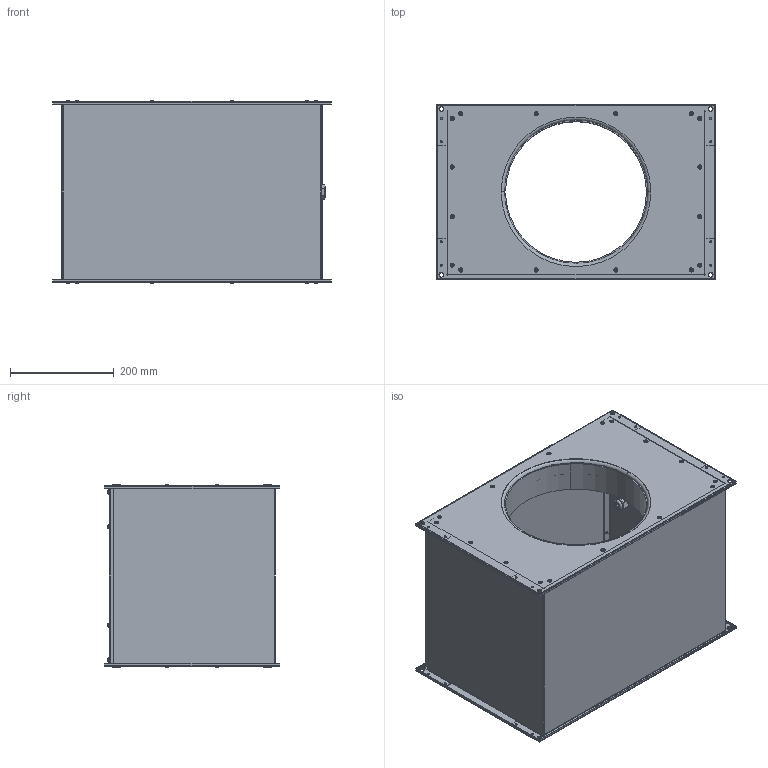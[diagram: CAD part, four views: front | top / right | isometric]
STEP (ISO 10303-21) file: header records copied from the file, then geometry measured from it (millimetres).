
FILE_DESCRIPTION (( 'STEP AP203' ), '1' );
FILE_NAME ('136742-00_EMKI5030EC20.STEP', '2016-04-20T05:02:14', ( '' ), ( '' ), 'SwSTEP 2.0', 'SolidWorks 2012', '' );
FILE_SCHEMA (( 'CONFIG_CONTROL_DESIGN' ));
Length unit declared in the file: millimetre
Products named in the file (1): 136742-00_EMKI5030EC20
Bounding box: 538 x 338 x 352.6 mm (x, y, z)
Surface area: 1837266.7 mm2 (no closed solid volume)
Topology: 0 solids, 86 shells, 543 faces, 1789 edges, 1290 vertices
Faces by surface type: cylinder 256, plane 165, torus 88, bspline 20, cone 14
Entity records: 21394 total; most frequent: CARTESIAN_POINT 5528, DIRECTION 3586, ORIENTED_EDGE 2616, EDGE_CURVE 1781, AXIS2_PLACEMENT_3D 1456, VERTEX_POINT 1290, CIRCLE 932, EDGE_LOOP 715
